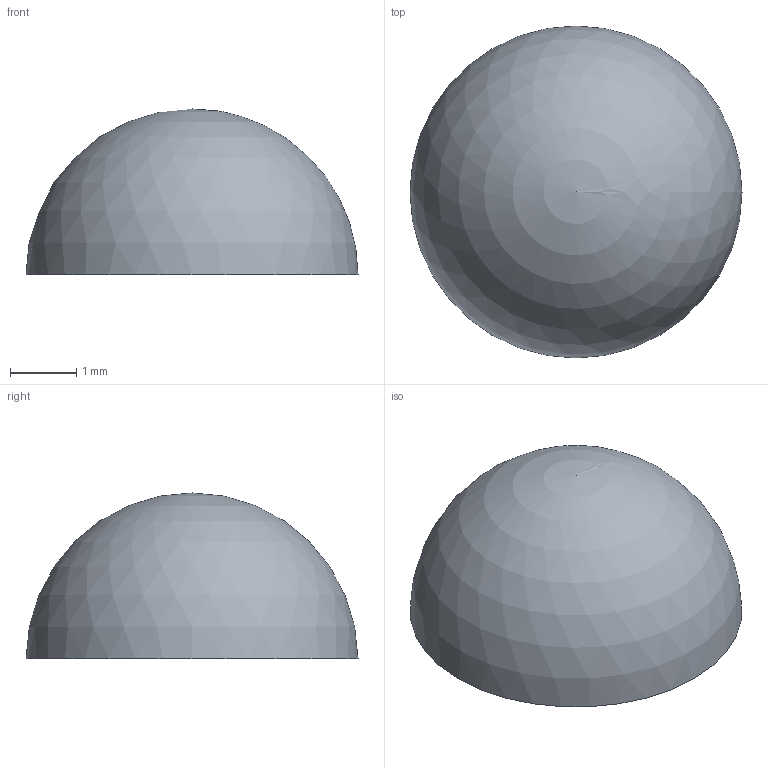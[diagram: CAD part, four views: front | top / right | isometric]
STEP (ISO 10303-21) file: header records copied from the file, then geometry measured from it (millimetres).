
FILE_DESCRIPTION(('BRL-CAD AP214 two-arc sphere fixture'),'2;1');
FILE_NAME('ap214_two_arc_sphere.stp','2026-07-20T00:00:00',('BRL-CAD'),('BRL-CAD'),'','','');
FILE_SCHEMA(('AUTOMOTIVE_DESIGN { 1 0 10303 214 3 1 1 1 }'));
Length unit declared in the file: millimetre
Products named in the file (1): two_arc_sphere
Bounding box: 5 x 5 x 2.5 mm (x, y, z)
Surface area: 78.5 mm2 (no closed solid volume)
Topology: 1 solids, 1 shells, 2 faces, 6 edges, 4 vertices
Faces by surface type: sphere 2
Entity records: 39 total; most frequent: ORIENTED_EDGE 4, CARTESIAN_POINT 3, DIRECTION 3, VERTEX_POINT 2, AXIS2_PLACEMENT_3D 2, CIRCLE 2, EDGE_CURVE 2, EDGE_LOOP 2
